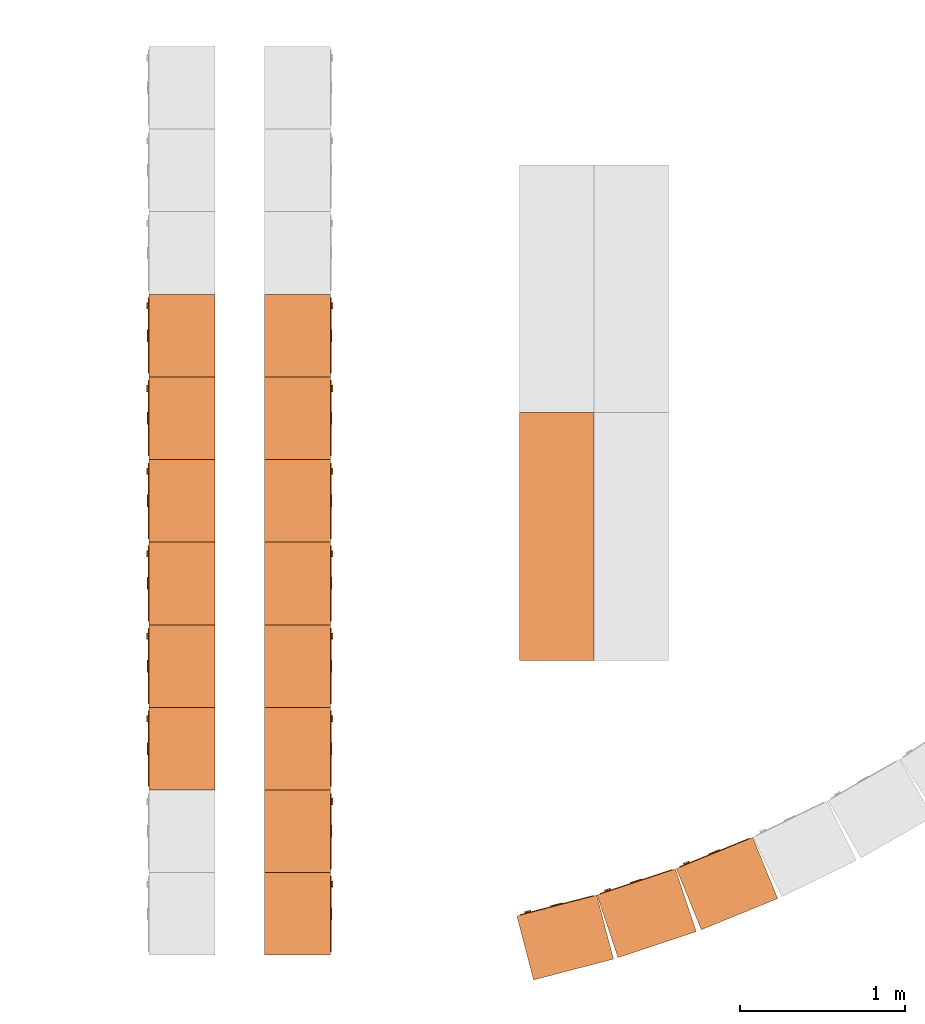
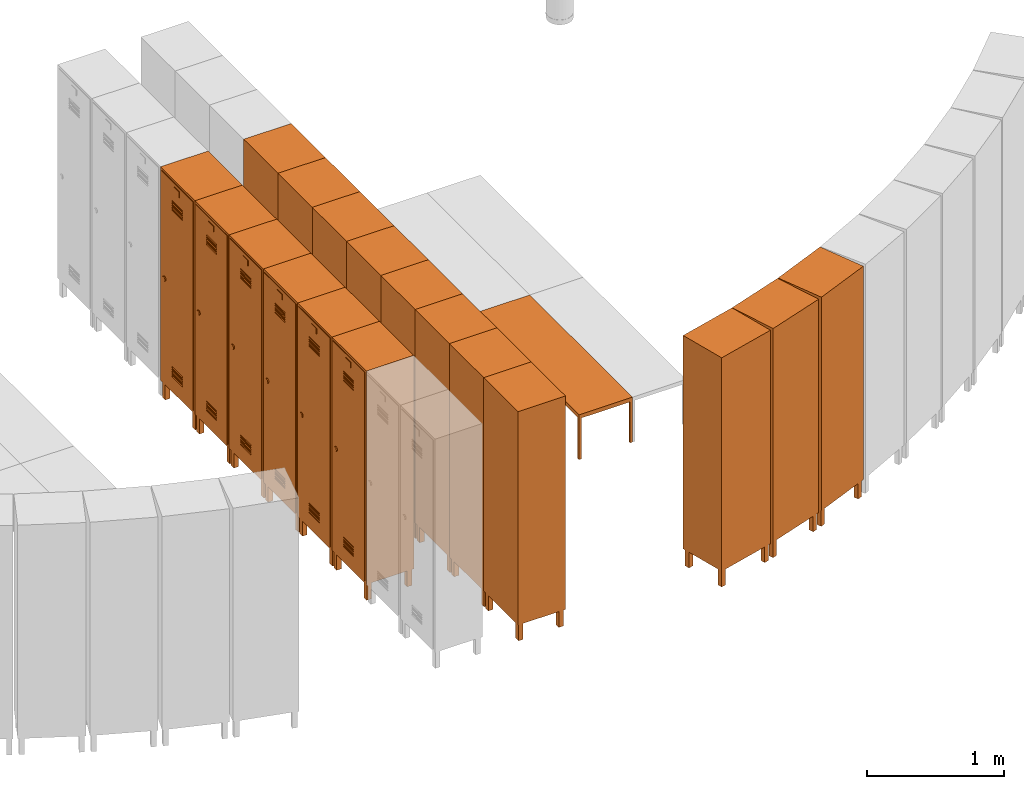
# One storey, part 5 of 7: 18 proxies.
"""IFC4 building model written with IfcOpenShell, lengths in millimetres."""

from ifc_helpers import new_model, entity, si_unit, converted_unit, derived_unit, direction, frame, origin_with_axes, place, context, subcontext, project, spatial, polygons, source, transform, mapped, type_object, element, save


model = new_model("IFC4")

# Units and contexts
model_context = context("Model", 3, precision=0.01, world=origin_with_axes(), true_north=direction((0.0, 1.0)))
body_context = subcontext(model_context, "Body", "Model", "MODEL_VIEW")
ifc_project = project(units=[si_unit("LENGTHUNIT", "METRE", prefix="MILLI"), si_unit("AREAUNIT", "SQUARE_METRE"), si_unit("VOLUMEUNIT", "CUBIC_METRE"), converted_unit("PLANEANGLEUNIT", "DEGREE", entity("IfcPlaneAngleMeasure", 0.0174532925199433), si_unit("PLANEANGLEUNIT", "RADIAN"), dimensions=[0, 0, 0, 0, 0, 0, 0]), converted_unit("TIMEUNIT", "Year", entity("IfcTimeMeasure", 31557600.0), si_unit("TIMEUNIT", "SECOND"), dimensions=[0, 0, 1, 0, 0, 0, 0]), si_unit("MASSUNIT", "GRAM", prefix="KILO"), si_unit("THERMODYNAMICTEMPERATUREUNIT", "DEGREE_CELSIUS"), si_unit("LUMINOUSINTENSITYUNIT", "LUMEN"), si_unit("ENERGYUNIT", "JOULE", prefix="MEGA"), derived_unit("THERMALCONDUCTANCEUNIT", [(si_unit("POWERUNIT", "WATT"), 1), (si_unit("LENGTHUNIT", "METRE"), -1), (si_unit("THERMODYNAMICTEMPERATUREUNIT", "KELVIN"), -1)]), derived_unit("SPECIFICHEATCAPACITYUNIT", [(si_unit("ENERGYUNIT", "JOULE"), 1), (si_unit("MASSUNIT", "GRAM", prefix="KILO"), -1), (si_unit("THERMODYNAMICTEMPERATUREUNIT", "KELVIN"), -1)]), derived_unit("MASSDENSITYUNIT", [(si_unit("MASSUNIT", "GRAM", prefix="KILO"), 1), (si_unit("VOLUMEUNIT", "CUBIC_METRE"), -1)])], contexts=[model_context])

# Site, building, storey
site_placement = place(None, origin_with_axes())
site = spatial("IfcSite", under=ifc_project, at=site_placement, Name="Exteriér", CompositionType="ELEMENT")
building_placement = place(site_placement, origin_with_axes())
building = spatial("IfcBuilding", under=site, at=building_placement, Name="Univerzitní lezecké centrum", CompositionType="ELEMENT")
storey_placement = place(building_placement, frame((0.0, 0.0, -3350.0), z_axis=(0.0, 0.0, 1.0), x_axis=(1.0, 0.0, 0.0)))
storey = spatial("IfcBuildingStorey", under=building, at=storey_placement, Name="1.PP", CompositionType="ELEMENT", Elevation=-3350.0)

# Proxies
building_element_proxy_type_1 = type_object("IfcBuildingElementProxyType", Name="Skříňky 24", PredefinedType="NOTDEFINED")
shared_shape_1 = source(origin_with_axes(), body_context, "Body", "Tessellation", [
    polygons([(9.999999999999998, 9.999999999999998, 0.0), (50.0, 9.999999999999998, 0.0), (50.0, 9.999999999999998, 150.0), (9.999999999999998, 9.999999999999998, 150.0), (9.999999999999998, 50.0, 0.0), (50.0, 50.0, 0.0), (50.0, 50.0, 150.0), (9.999999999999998, 50.0, 150.0)], [[[1, 2, 3, 4]], [[1, 5, 6, 2]], [[2, 6, 7, 3]], [[4, 3, 7, 8]], [[5, 1, 4, 8]], [[6, 5, 8, 7]]], closed=True),
    polygons([(449.9999999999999, 9.999999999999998, 0.0), (490.0, 9.999999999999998, 0.0), (490.0, 9.999999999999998, 150.0), (449.9999999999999, 9.999999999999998, 150.0), (449.9999999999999, 50.0, 0.0), (490.0, 50.0, 0.0), (490.0, 50.0, 150.0), (449.9999999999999, 50.0, 150.0)], [[[1, 2, 3, 4]], [[1, 5, 6, 2]], [[2, 6, 7, 3]], [[4, 3, 7, 8]], [[5, 1, 4, 8]], [[6, 5, 8, 7]]], closed=True),
    polygons([(9.999999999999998, 350.0, 0.0), (50.0, 350.0, 0.0), (50.0, 350.0, 150.0), (9.999999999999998, 350.0, 150.0), (9.999999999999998, 390.0, 0.0), (50.0, 390.0, 0.0), (50.0, 390.0, 150.0), (9.999999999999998, 390.0, 150.0)], [[[1, 2, 3, 4]], [[1, 5, 6, 2]], [[2, 6, 7, 3]], [[4, 3, 7, 8]], [[5, 1, 4, 8]], [[6, 5, 8, 7]]], closed=True),
    polygons([(449.9999999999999, 350.0, 0.0), (490.0, 350.0, 0.0), (490.0, 350.0, 150.0), (449.9999999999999, 350.0, 150.0), (449.9999999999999, 390.0, 0.0), (490.0, 390.0, 0.0), (490.0, 390.0, 150.0), (449.9999999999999, 390.0, 150.0)], [[[1, 2, 3, 4]], [[1, 5, 6, 2]], [[2, 6, 7, 3]], [[4, 3, 7, 8]], [[5, 1, 4, 8]], [[6, 5, 8, 7]]], closed=True),
    polygons([(0.0, 0.0, 150.0), (0.0, 0.0, 2050.0), (0.0, 379.9999999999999, 2050.0), (0.0, 380.0, 150.0), (500.0, 0.0, 150.0), (500.0, 0.0, 2050.0), (20.0, 0.0, 170.0), (20.0, 0.0, 2030.0), (480.0, 0.0, 2030.0), (480.0, 0.0, 170.0), (500.0, 379.9999999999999, 2050.0), (500.0, 380.0, 150.0), (20.0, 380.0, 170.0), (480.0, 380.0, 170.0), (480.0, 379.9999999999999, 2030.0), (20.0, 379.9999999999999, 2030.0)], [[[1, 2, 3, 4]], [[1, 5, 6, 2], [7, 8, 9, 10]], [[2, 6, 11, 3]], [[4, 3, 11, 12], [13, 14, 15, 16]], [[5, 1, 4, 12]], [[6, 5, 12, 11]], [[8, 7, 13, 16]], [[9, 8, 16, 15]], [[10, 9, 15, 14]], [[7, 10, 14, 13]]], closed=True),
    polygons([(0.0, 379.9999999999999, 2050.0), (500.0, 379.9999999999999, 2050.0), (500.0, 399.9999999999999, 2050.0), (0.0, 399.9999999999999, 2050.0), (0.0, 380.0, 150.0), (500.0, 380.0, 150.0), (500.0, 400.0, 150.0), (0.0, 400.0, 150.0)], [[[1, 2, 3, 4]], [[1, 5, 6, 2]], [[2, 6, 7, 3]], [[4, 3, 7, 8]], [[5, 1, 4, 8]], [[6, 5, 8, 7]]], closed=True),
    polygons([(20.0, 5.0, 170.0), (480.0000000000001, 5.0, 170.0), (480.0000000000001, -5.0, 170.0), (20.0, -5.0, 170.0), (20.0, 5.000000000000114, 2030.0), (480.0000000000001, 5.000000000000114, 2030.0), (175.0, 5.000000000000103, 1850.0), (325.0000000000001, 5.000000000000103, 1850.0), (325.0000000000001, 5.000000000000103, 1860.0), (175.0, 5.000000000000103, 1860.0), (175.0, 5.000000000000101, 1830.0), (325.0000000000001, 5.000000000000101, 1830.0), (325.0000000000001, 5.000000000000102, 1840.0), (175.0, 5.000000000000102, 1840.0), (175.0, 5.0000000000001, 1810.0), (325.0000000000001, 5.0000000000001, 1810.0), (325.0000000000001, 5.0000000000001, 1820.0), (175.0, 5.0000000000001, 1820.0), (175.0, 5.000000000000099, 1790.0), (325.0000000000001, 5.000000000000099, 1790.0), (325.0000000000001, 5.000000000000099, 1800.0), (175.0, 5.000000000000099, 1800.0), (175.0, 5.000000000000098, 1770.0), (325.0000000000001, 5.000000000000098, 1770.0), (325.0000000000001, 5.000000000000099, 1780.0), (175.0, 5.000000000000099, 1780.0), (175.0, 5.000000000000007, 290.0), (325.0000000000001, 5.000000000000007, 290.0), (325.0000000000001, 5.000000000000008, 300.0), (175.0, 5.000000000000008, 300.0), (175.0, 5.000000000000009, 310.0), (325.0000000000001, 5.000000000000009, 310.0), (325.0000000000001, 5.00000000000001, 319.9999999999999), (175.0, 5.00000000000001, 319.9999999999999), (175.0, 5.00000000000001, 329.9999999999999), (325.0000000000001, 5.00000000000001, 329.9999999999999), (325.0000000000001, 5.000000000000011, 339.9999999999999), (175.0, 5.000000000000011, 339.9999999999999), (175.0, 5.000000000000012, 350.0), (325.0000000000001, 5.000000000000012, 350.0), (325.0000000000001, 5.000000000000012, 360.0), (175.0, 5.000000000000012, 360.0), (175.0, 5.000000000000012, 370.0), (325.0000000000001, 5.000000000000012, 370.0), (325.0000000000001, 5.000000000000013, 380.0), (175.0, 5.000000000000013, 380.0), (480.0000000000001, -4.999999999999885, 2030.0), (20.0, -4.999999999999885, 2030.0), (175.0, -4.999999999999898, 1850.0), (175.0, -4.999999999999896, 1860.0), (325.0000000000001, -4.999999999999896, 1860.0), (325.0000000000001, -4.999999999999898, 1850.0), (175.0, -4.999999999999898, 1830.0), (175.0, -4.999999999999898, 1840.0), (325.0000000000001, -4.999999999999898, 1840.0), (325.0000000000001, -4.999999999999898, 1830.0), (175.0, -4.9999999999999, 1810.0), (175.0, -4.9999999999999, 1820.0), (325.0000000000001, -4.9999999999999, 1820.0), (325.0000000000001, -4.9999999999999, 1810.0), (175.0, -4.999999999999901, 1790.0), (175.0, -4.9999999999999, 1800.0), (325.0000000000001, -4.9999999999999, 1800.0), (325.0000000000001, -4.999999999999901, 1790.0), (175.0, -4.999999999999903, 1770.0), (175.0, -4.999999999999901, 1780.0), (325.0000000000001, -4.999999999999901, 1780.0), (325.0000000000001, -4.999999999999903, 1770.0), (175.0, -4.999999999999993, 290.0), (175.0, -4.999999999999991, 300.0), (325.0000000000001, -4.999999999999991, 300.0), (325.0000000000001, -4.999999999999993, 290.0), (175.0, -4.999999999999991, 310.0), (175.0, -4.999999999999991, 319.9999999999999), (325.0000000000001, -4.999999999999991, 319.9999999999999), (325.0000000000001, -4.999999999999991, 310.0), (175.0, -4.999999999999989, 329.9999999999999), (175.0, -4.999999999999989, 339.9999999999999), (325.0000000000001, -4.999999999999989, 339.9999999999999), (325.0000000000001, -4.999999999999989, 329.9999999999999), (175.0, -4.999999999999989, 350.0), (175.0, -4.999999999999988, 360.0), (325.0000000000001, -4.999999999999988, 360.0), (325.0000000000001, -4.999999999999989, 350.0), (175.0, -4.999999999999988, 370.0), (175.0, -4.999999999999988, 380.0), (325.0000000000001, -4.999999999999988, 380.0), (325.0000000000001, -4.999999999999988, 370.0)], [[[1, 2, 3, 4]], [[1, 5, 6, 2], [7, 8, 9, 10], [11, 12, 13, 14], [15, 16, 17, 18], [19, 20, 21, 22], [23, 24, 25, 26], [27, 28, 29, 30], [31, 32, 33, 34], [35, 36, 37, 38], [39, 40, 41, 42], [43, 44, 45, 46]], [[2, 6, 47, 3]], [[4, 3, 47, 48], [49, 50, 51, 52], [53, 54, 55, 56], [57, 58, 59, 60], [61, 62, 63, 64], [65, 66, 67, 68], [69, 70, 71, 72], [73, 74, 75, 76], [77, 78, 79, 80], [81, 82, 83, 84], [85, 86, 87, 88]], [[5, 1, 4, 48]], [[6, 5, 48, 47]], [[8, 7, 49, 52]], [[9, 8, 52, 51]], [[10, 9, 51, 50]], [[7, 10, 50, 49]], [[12, 11, 53, 56]], [[13, 12, 56, 55]], [[14, 13, 55, 54]], [[11, 14, 54, 53]], [[16, 15, 57, 60]], [[17, 16, 60, 59]], [[18, 17, 59, 58]], [[15, 18, 58, 57]], [[20, 19, 61, 64]], [[21, 20, 64, 63]], [[22, 21, 63, 62]], [[19, 22, 62, 61]], [[24, 23, 65, 68]], [[25, 24, 68, 67]], [[26, 25, 67, 66]], [[23, 26, 66, 65]], [[28, 27, 69, 72]], [[29, 28, 72, 71]], [[30, 29, 71, 70]], [[27, 30, 70, 69]], [[32, 31, 73, 76]], [[33, 32, 76, 75]], [[34, 33, 75, 74]], [[31, 34, 74, 73]], [[36, 35, 77, 80]], [[37, 36, 80, 79]], [[38, 37, 79, 78]], [[35, 38, 78, 77]], [[40, 39, 81, 84]], [[41, 40, 84, 83]], [[42, 41, 83, 82]], [[39, 42, 82, 81]], [[44, 43, 85, 88]], [[45, 44, 88, 87]], [[46, 45, 87, 86]], [[43, 46, 86, 85]]], closed=True),
    polygons([(287.5, -10.0, 1950.0), (212.5, -10.0, 1950.0), (212.5, -5.0, 1950.0), (287.5, -5.0, 1950.0), (287.5, -10.0, 2000.0), (212.5, -10.0, 2000.0), (212.5, -5.0, 2000.0), (287.5, -5.0, 2000.0)], [[[1, 2, 3, 4]], [[2, 1, 5, 6]], [[3, 2, 6, 7]], [[4, 3, 7, 8]], [[1, 4, 8, 5]], [[6, 5, 8, 7]]], closed=True),
    polygons([(84.14213562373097, -5.000000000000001, 1085.857864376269), (70.0, -5.000000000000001, 1080.0), (55.85786437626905, -5.000000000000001, 1085.857864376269), (50.0, -5.0, 1100.0), (55.85786437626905, -4.999999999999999, 1114.142135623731), (70.0, -4.999999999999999, 1120.0), (84.14213562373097, -4.999999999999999, 1114.142135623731), (90.00000000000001, -5.0, 1100.0), (84.14213562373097, -15.0, 1085.857864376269), (70.0, -15.0, 1080.0), (55.85786437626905, -15.0, 1085.857864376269), (50.0, -15.0, 1100.0), (55.85786437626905, -15.0, 1114.142135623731), (70.0, -15.0, 1120.0), (84.14213562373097, -15.0, 1114.142135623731), (90.00000000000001, -15.0, 1100.0)], [[[1, 2, 3, 4, 5, 6, 7, 8]], [[2, 1, 9, 10]], [[3, 2, 10, 11]], [[4, 3, 11, 12]], [[5, 4, 12, 13]], [[6, 5, 13, 14]], [[7, 6, 14, 15]], [[8, 7, 15, 16]], [[1, 8, 16, 9]], [[9, 16, 15, 14, 13, 12, 11, 10]]], closed=True),
])
for number, where, z_axis, x_axis, name in (
    (1, (1899.851648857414, -4949.739482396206, 0.0), (0.0, 0.0, 1.0), (0.0, -1.0, 0.0), "OV02"),
    (2, (1899.851648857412, -5449.739482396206, 0.0), (0.0, 0.0, 1.0), (0.0, -1.0, 0.0), "OV02"),
    (3, (1899.851648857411, -6449.739482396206, 0.0), (0.0, 0.0, 1.0), (0.0, -1.0, 0.0), "OV02"),
    (4, (1899.851648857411, -5949.739482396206, 0.0), (0.0, 0.0, 1.0), (0.0, -1.0, 0.0), "OV02"),
    (5, (1899.851648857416, -3949.739482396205, 0.0), (0.0, 0.0, 1.0), (0.0, -1.0, 0.0), "OV02"),
    (6, (1899.851648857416, -4449.739482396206, 0.0), (0.0, 0.0, 1.0), (0.0, -1.0, 0.0), "OV02"),
):
    element("IfcBuildingElementProxy", number, at=place(storey_placement, frame(where, z_axis=z_axis, x_axis=x_axis)), inside=storey, type_object=building_element_proxy_type_1, Name=name, PredefinedType="NOTDEFINED", context=body_context, shape_type="MappedRepresentation", body=[
        mapped(shared_shape_1, transform((0.0, 0.0, 0.0))),
    ])
shared_shape_2 = source(origin_with_axes(), body_context, "Body", "Tessellation", [
    polygons([(-9.999999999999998, 9.999999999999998, 0.0), (-9.999999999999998, 9.999999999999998, 150.0), (-50.0, 9.999999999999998, 150.0), (-50.0, 9.999999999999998, 0.0), (-9.999999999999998, 50.0, 0.0), (-9.999999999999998, 50.0, 150.0), (-50.0, 50.0, 150.0), (-50.0, 50.0, 0.0)], [[[1, 2, 3, 4]], [[5, 6, 2, 1]], [[2, 6, 7, 3]], [[4, 3, 7, 8]], [[1, 4, 8, 5]], [[8, 7, 6, 5]]], closed=True),
    polygons([(-449.9999999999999, 9.999999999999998, 0.0), (-449.9999999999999, 9.999999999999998, 150.0), (-490.0, 9.999999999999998, 150.0), (-490.0, 9.999999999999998, 0.0), (-449.9999999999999, 50.0, 0.0), (-449.9999999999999, 50.0, 150.0), (-490.0, 50.0, 150.0), (-490.0, 50.0, 0.0)], [[[1, 2, 3, 4]], [[5, 6, 2, 1]], [[2, 6, 7, 3]], [[4, 3, 7, 8]], [[1, 4, 8, 5]], [[8, 7, 6, 5]]], closed=True),
    polygons([(-9.999999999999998, 350.0, 0.0), (-9.999999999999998, 350.0, 150.0), (-50.0, 350.0, 150.0), (-50.0, 350.0, 0.0), (-9.999999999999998, 390.0, 0.0), (-9.999999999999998, 390.0, 150.0), (-50.0, 390.0, 150.0), (-50.0, 390.0, 0.0)], [[[1, 2, 3, 4]], [[5, 6, 2, 1]], [[2, 6, 7, 3]], [[4, 3, 7, 8]], [[1, 4, 8, 5]], [[8, 7, 6, 5]]], closed=True),
    polygons([(-449.9999999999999, 350.0, 0.0), (-449.9999999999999, 350.0, 150.0), (-490.0, 350.0, 150.0), (-490.0, 350.0, 0.0), (-449.9999999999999, 390.0, 0.0), (-449.9999999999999, 390.0, 150.0), (-490.0, 390.0, 150.0), (-490.0, 390.0, 0.0)], [[[1, 2, 3, 4]], [[5, 6, 2, 1]], [[2, 6, 7, 3]], [[4, 3, 7, 8]], [[1, 4, 8, 5]], [[8, 7, 6, 5]]], closed=True),
    polygons([(0.0, 0.0, 150.0), (0.0, 380.0, 150.0), (0.0, 379.9999999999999, 2050.0), (0.0, 0.0, 2050.0), (-500.0, 0.0, 150.0), (-500.0, 380.0, 150.0), (-500.0, 379.9999999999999, 2050.0), (-20.0, 380.0, 170.0), (-20.0, 379.9999999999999, 2030.0), (-480.0, 379.9999999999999, 2030.0), (-480.0, 380.0, 170.0), (-500.0, 0.0, 2050.0), (-20.0, 0.0, 170.0), (-480.0, 0.0, 170.0), (-480.0, 0.0, 2030.0), (-20.0, 0.0, 2030.0)], [[[1, 2, 3, 4]], [[5, 6, 2, 1]], [[2, 6, 7, 3], [8, 9, 10, 11]], [[4, 3, 7, 12]], [[1, 4, 12, 5], [13, 14, 15, 16]], [[12, 7, 6, 5]], [[16, 9, 8, 13]], [[15, 10, 9, 16]], [[14, 11, 10, 15]], [[13, 8, 11, 14]]], closed=True),
    polygons([(0.0, 379.9999999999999, 2050.0), (0.0, 399.9999999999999, 2050.0), (-500.0, 399.9999999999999, 2050.0), (-500.0, 379.9999999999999, 2050.0), (0.0, 380.0, 150.0), (0.0, 400.0, 150.0), (-500.0, 400.0, 150.0), (-500.0, 380.0, 150.0)], [[[1, 2, 3, 4]], [[5, 6, 2, 1]], [[2, 6, 7, 3]], [[4, 3, 7, 8]], [[1, 4, 8, 5]], [[8, 7, 6, 5]]], closed=True),
    polygons([(-20.0, 5.0, 170.0), (-20.0, -5.0, 170.0), (-480.0000000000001, -5.0, 170.0), (-480.0000000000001, 5.0, 170.0), (-20.0, 5.000000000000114, 2030.0), (-20.0, -4.999999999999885, 2030.0), (-480.0000000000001, -4.999999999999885, 2030.0), (-175.0, -4.999999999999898, 1850.0), (-325.0000000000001, -4.999999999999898, 1850.0), (-325.0000000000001, -4.999999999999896, 1860.0), (-175.0, -4.999999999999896, 1860.0), (-175.0, -4.999999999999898, 1830.0), (-325.0000000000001, -4.999999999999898, 1830.0), (-325.0000000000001, -4.999999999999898, 1840.0), (-175.0, -4.999999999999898, 1840.0), (-175.0, -4.9999999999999, 1810.0), (-325.0000000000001, -4.9999999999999, 1810.0), (-325.0000000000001, -4.9999999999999, 1820.0), (-175.0, -4.9999999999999, 1820.0), (-175.0, -4.999999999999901, 1790.0), (-325.0000000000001, -4.999999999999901, 1790.0), (-325.0000000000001, -4.9999999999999, 1800.0), (-175.0, -4.9999999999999, 1800.0), (-175.0, -4.999999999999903, 1770.0), (-325.0000000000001, -4.999999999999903, 1770.0), (-325.0000000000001, -4.999999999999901, 1780.0), (-175.0, -4.999999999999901, 1780.0), (-175.0, -4.999999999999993, 290.0), (-325.0000000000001, -4.999999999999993, 290.0), (-325.0000000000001, -4.999999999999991, 300.0), (-175.0, -4.999999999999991, 300.0), (-175.0, -4.999999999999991, 310.0), (-325.0000000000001, -4.999999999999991, 310.0), (-325.0000000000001, -4.999999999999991, 319.9999999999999), (-175.0, -4.999999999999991, 319.9999999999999), (-175.0, -4.999999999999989, 329.9999999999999), (-325.0000000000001, -4.999999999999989, 329.9999999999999), (-325.0000000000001, -4.999999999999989, 339.9999999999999), (-175.0, -4.999999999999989, 339.9999999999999), (-175.0, -4.999999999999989, 350.0), (-325.0000000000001, -4.999999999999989, 350.0), (-325.0000000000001, -4.999999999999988, 360.0), (-175.0, -4.999999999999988, 360.0), (-175.0, -4.999999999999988, 370.0), (-325.0000000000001, -4.999999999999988, 370.0), (-325.0000000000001, -4.999999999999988, 380.0), (-175.0, -4.999999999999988, 380.0), (-480.0000000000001, 5.000000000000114, 2030.0), (-175.0, 5.000000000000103, 1850.0), (-175.0, 5.000000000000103, 1860.0), (-325.0000000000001, 5.000000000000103, 1860.0), (-325.0000000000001, 5.000000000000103, 1850.0), (-175.0, 5.000000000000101, 1830.0), (-175.0, 5.000000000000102, 1840.0), (-325.0000000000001, 5.000000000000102, 1840.0), (-325.0000000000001, 5.000000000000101, 1830.0), (-175.0, 5.0000000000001, 1810.0), (-175.0, 5.0000000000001, 1820.0), (-325.0000000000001, 5.0000000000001, 1820.0), (-325.0000000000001, 5.0000000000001, 1810.0), (-175.0, 5.000000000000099, 1790.0), (-175.0, 5.000000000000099, 1800.0), (-325.0000000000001, 5.000000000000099, 1800.0), (-325.0000000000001, 5.000000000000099, 1790.0), (-175.0, 5.000000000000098, 1770.0), (-175.0, 5.000000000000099, 1780.0), (-325.0000000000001, 5.000000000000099, 1780.0), (-325.0000000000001, 5.000000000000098, 1770.0), (-175.0, 5.000000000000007, 290.0), (-175.0, 5.000000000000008, 300.0), (-325.0000000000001, 5.000000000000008, 300.0), (-325.0000000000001, 5.000000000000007, 290.0), (-175.0, 5.000000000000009, 310.0), (-175.0, 5.00000000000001, 319.9999999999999), (-325.0000000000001, 5.00000000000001, 319.9999999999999), (-325.0000000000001, 5.000000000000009, 310.0), (-175.0, 5.00000000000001, 329.9999999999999), (-175.0, 5.000000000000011, 339.9999999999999), (-325.0000000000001, 5.000000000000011, 339.9999999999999), (-325.0000000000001, 5.00000000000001, 329.9999999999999), (-175.0, 5.000000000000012, 350.0), (-175.0, 5.000000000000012, 360.0), (-325.0000000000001, 5.000000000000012, 360.0), (-325.0000000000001, 5.000000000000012, 350.0), (-175.0, 5.000000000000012, 370.0), (-175.0, 5.000000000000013, 380.0), (-325.0000000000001, 5.000000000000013, 380.0), (-325.0000000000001, 5.000000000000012, 370.0)], [[[1, 2, 3, 4]], [[5, 6, 2, 1]], [[2, 6, 7, 3], [8, 9, 10, 11], [12, 13, 14, 15], [16, 17, 18, 19], [20, 21, 22, 23], [24, 25, 26, 27], [28, 29, 30, 31], [32, 33, 34, 35], [36, 37, 38, 39], [40, 41, 42, 43], [44, 45, 46, 47]], [[4, 3, 7, 48]], [[1, 4, 48, 5], [49, 50, 51, 52], [53, 54, 55, 56], [57, 58, 59, 60], [61, 62, 63, 64], [65, 66, 67, 68], [69, 70, 71, 72], [73, 74, 75, 76], [77, 78, 79, 80], [81, 82, 83, 84], [85, 86, 87, 88]], [[48, 7, 6, 5]], [[52, 9, 8, 49]], [[51, 10, 9, 52]], [[50, 11, 10, 51]], [[49, 8, 11, 50]], [[56, 13, 12, 53]], [[55, 14, 13, 56]], [[54, 15, 14, 55]], [[53, 12, 15, 54]], [[60, 17, 16, 57]], [[59, 18, 17, 60]], [[58, 19, 18, 59]], [[57, 16, 19, 58]], [[64, 21, 20, 61]], [[63, 22, 21, 64]], [[62, 23, 22, 63]], [[61, 20, 23, 62]], [[68, 25, 24, 65]], [[67, 26, 25, 68]], [[66, 27, 26, 67]], [[65, 24, 27, 66]], [[72, 29, 28, 69]], [[71, 30, 29, 72]], [[70, 31, 30, 71]], [[69, 28, 31, 70]], [[76, 33, 32, 73]], [[75, 34, 33, 76]], [[74, 35, 34, 75]], [[73, 32, 35, 74]], [[80, 37, 36, 77]], [[79, 38, 37, 80]], [[78, 39, 38, 79]], [[77, 36, 39, 78]], [[84, 41, 40, 81]], [[83, 42, 41, 84]], [[82, 43, 42, 83]], [[81, 40, 43, 82]], [[88, 45, 44, 85]], [[87, 46, 45, 88]], [[86, 47, 46, 87]], [[85, 44, 47, 86]]], closed=True),
    polygons([(-287.5, -10.0, 1950.0), (-287.5, -5.0, 1950.0), (-212.5, -5.0, 1950.0), (-212.5, -10.0, 1950.0), (-287.5, -10.0, 2000.0), (-287.5, -5.0, 2000.0), (-212.5, -5.0, 2000.0), (-212.5, -10.0, 2000.0)], [[[1, 2, 3, 4]], [[1, 5, 6, 2]], [[2, 6, 7, 3]], [[3, 7, 8, 4]], [[4, 8, 5, 1]], [[8, 7, 6, 5]]], closed=True),
    polygons([(-84.14213562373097, -5.000000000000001, 1085.857864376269), (-90.00000000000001, -5.0, 1100.0), (-84.14213562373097, -4.999999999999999, 1114.142135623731), (-70.0, -4.999999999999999, 1120.0), (-55.85786437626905, -4.999999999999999, 1114.142135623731), (-50.0, -5.0, 1100.0), (-55.85786437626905, -5.000000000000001, 1085.857864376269), (-70.0, -5.000000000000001, 1080.0), (-84.14213562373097, -15.0, 1085.857864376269), (-90.00000000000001, -15.0, 1100.0), (-84.14213562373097, -15.0, 1114.142135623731), (-70.0, -15.0, 1120.0), (-55.85786437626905, -15.0, 1114.142135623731), (-50.0, -15.0, 1100.0), (-55.85786437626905, -15.0, 1085.857864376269), (-70.0, -15.0, 1080.0)], [[[1, 2, 3, 4, 5, 6, 7, 8]], [[1, 9, 10, 2]], [[2, 10, 11, 3]], [[3, 11, 12, 4]], [[4, 12, 13, 5]], [[5, 13, 14, 6]], [[6, 14, 15, 7]], [[7, 15, 16, 8]], [[8, 16, 9, 1]], [[9, 16, 15, 14, 13, 12, 11, 10]]], closed=True),
])
for number, where, z_axis, x_axis, name in (
    (7, (4613.144919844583, -7585.566890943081, 0.0), (0.0, 0.0, 1.0), (-0.9489108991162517, -0.3155441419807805, 0.0), "OV03"),
    (8, (2999.851648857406, -7449.739482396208, 0.0), (0.0, 0.0, 1.0), (0.0, 1.0, 0.0), "OV03"),
    (9, (2999.851648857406, -6449.739482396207, 0.0), (0.0, 0.0, 1.0), (0.0, 1.0, 0.0), "OV03"),
    (10, (2999.851648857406, -6949.739482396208, 0.0), (0.0, 0.0, 1.0), (0.0, 1.0, 0.0), "OV03"),
    (11, (5092.357618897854, -7425.828232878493, 0.0), (0.0, 0.0, 1.0), (-0.9257394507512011, -0.378161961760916, 0.0), "OV03"),
    (12, (2999.851648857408, -5949.739482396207, 0.0), (0.0, 0.0, 1.0), (0.0, 1.0, 0.0), "OV03"),
    (13, (4127.58982156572, -7712.713227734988, 0.0), (0.0, 0.0, 1.0), (-0.9675455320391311, -0.2526967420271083, 0.0), "OV03"),
    (14, (2999.85164885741, -3949.739482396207, 0.0), (0.0, 0.0, 1.0), (0.0, 1.0, 0.0), "OV03"),
    (15, (2999.851648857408, -4449.739482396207, 0.0), (0.0, 0.0, 1.0), (0.0, 1.0, 0.0), "OV03"),
    (16, (2999.851648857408, -4949.739482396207, 0.0), (0.0, 0.0, 1.0), (0.0, 1.0, 0.0), "OV03"),
    (17, (2999.851648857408, -5449.739482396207, 0.0), (0.0, 0.0, 1.0), (0.0, 1.0, 0.0), "OV03"),
):
    element("IfcBuildingElementProxy", number, at=place(storey_placement, frame(where, z_axis=z_axis, x_axis=x_axis)), inside=storey, type_object=building_element_proxy_type_1, Name=name, PredefinedType="NOTDEFINED", context=body_context, shape_type="MappedRepresentation", body=[
        mapped(shared_shape_2, transform((0.0, 0.0, 0.0))),
    ])
building_element_proxy_type_2 = type_object("IfcBuildingElementProxyType", Name="Lavice 24", PredefinedType="NOTDEFINED")
shared_shape_3 = source(origin_with_axes(), body_context, "Body", "Tessellation", [
    polygons([(-20.0, 0.0, 0.0), (-20.0, 20.0, 0.0), (0.0, 20.0, 0.0), (0.0, 0.0, 0.0), (-20.0, 0.0, 385.0), (-20.0, 20.0, 385.0), (0.0, 20.0, 385.0), (0.0, 0.0, 385.0)], [[[1, 2, 3, 4]], [[1, 5, 6, 2]], [[2, 6, 7, 3]], [[3, 7, 8, 4]], [[4, 8, 5, 1]], [[8, 7, 6, 5]]], closed=True),
    polygons([(-20.0, 430.0, 0.0), (-20.0, 450.0, 0.0), (0.0, 450.0, 0.0), (0.0, 430.0, 0.0), (-20.0, 430.0, 385.0), (-20.0, 450.0, 385.0), (0.0, 450.0, 385.0), (0.0, 430.0, 385.0)], [[[1, 2, 3, 4]], [[1, 5, 6, 2]], [[2, 6, 7, 3]], [[3, 7, 8, 4]], [[4, 8, 5, 1]], [[8, 7, 6, 5]]], closed=True),
    polygons([(-1500.0, 0.0, 0.0), (-1500.0, 20.0, 0.0), (-1480.0, 20.0, 0.0), (-1480.0, 0.0, 0.0), (-1500.0, 0.0, 385.0), (-1500.0, 20.0, 385.0), (-1480.0, 20.0, 385.0), (-1480.0, 0.0, 385.0)], [[[1, 2, 3, 4]], [[1, 5, 6, 2]], [[2, 6, 7, 3]], [[3, 7, 8, 4]], [[4, 8, 5, 1]], [[8, 7, 6, 5]]], closed=True),
    polygons([(-1500.0, 430.0, 0.0), (-1500.0, 450.0, 0.0), (-1480.0, 450.0, 0.0), (-1480.0, 430.0, 0.0), (-1500.0, 430.0, 385.0), (-1500.0, 450.0, 385.0), (-1480.0, 450.0, 385.0), (-1480.0, 430.0, 385.0)], [[[1, 2, 3, 4]], [[1, 5, 6, 2]], [[2, 6, 7, 3]], [[3, 7, 8, 4]], [[4, 8, 5, 1]], [[8, 7, 6, 5]]], closed=True),
    polygons([(-760.0, 0.0, 0.0), (-760.0, 20.0, 0.0), (-740.0, 20.0, 0.0), (-740.0, 0.0, 0.0), (-760.0, 0.0, 385.0), (-760.0, 20.0, 385.0), (-740.0, 20.0, 385.0), (-740.0, 0.0, 385.0)], [[[1, 2, 3, 4]], [[1, 5, 6, 2]], [[2, 6, 7, 3]], [[3, 7, 8, 4]], [[4, 8, 5, 1]], [[8, 7, 6, 5]]], closed=True),
    polygons([(-760.0, 430.0, 0.0), (-760.0, 450.0, 0.0), (-740.0, 450.0, 0.0), (-740.0, 430.0, 0.0), (-760.0, 430.0, 385.0), (-760.0, 450.0, 385.0), (-740.0, 450.0, 385.0), (-740.0, 430.0, 385.0)], [[[1, 2, 3, 4]], [[1, 5, 6, 2]], [[2, 6, 7, 3]], [[3, 7, 8, 4]], [[4, 8, 5, 1]], [[8, 7, 6, 5]]], closed=True),
    polygons([(-740.0, 0.0, 365.0000000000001), (-740.0, 20.0, 365.0000000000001), (-20.0, 20.0, 365.0000000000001), (-20.0, 0.0, 365.0000000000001), (-740.0, 0.0, 385.0000000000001), (-740.0, 20.0, 385.0000000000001), (-20.0, 20.0, 385.0000000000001), (-20.0, 0.0, 385.0000000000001)], [[[1, 2, 3, 4]], [[1, 5, 6, 2]], [[2, 6, 7, 3]], [[3, 7, 8, 4]], [[4, 8, 5, 1]], [[8, 7, 6, 5]]], closed=True),
    polygons([(-1480.0, 0.0, 365.0000000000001), (-1480.0, 20.0, 365.0000000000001), (-760.0, 20.0, 365.0000000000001), (-760.0, 0.0, 365.0000000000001), (-1480.0, 0.0, 385.0000000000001), (-1480.0, 20.0, 385.0000000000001), (-760.0, 20.0, 385.0000000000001), (-760.0, 0.0, 385.0000000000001)], [[[1, 2, 3, 4]], [[1, 5, 6, 2]], [[2, 6, 7, 3]], [[3, 7, 8, 4]], [[4, 8, 5, 1]], [[8, 7, 6, 5]]], closed=True),
    polygons([(-740.0, 430.0, 365.0000000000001), (-740.0, 450.0, 365.0000000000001), (-20.0, 450.0, 365.0000000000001), (-20.0, 430.0, 365.0000000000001), (-740.0, 430.0, 385.0000000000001), (-740.0, 450.0, 385.0000000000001), (-20.0, 450.0, 385.0000000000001), (-20.0, 430.0, 385.0000000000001)], [[[1, 2, 3, 4]], [[1, 5, 6, 2]], [[2, 6, 7, 3]], [[3, 7, 8, 4]], [[4, 8, 5, 1]], [[8, 7, 6, 5]]], closed=True),
    polygons([(-1480.0, 430.0, 365.0000000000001), (-1480.0, 450.0, 365.0000000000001), (-760.0, 450.0, 365.0000000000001), (-760.0, 430.0, 365.0000000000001), (-1480.0, 430.0, 385.0000000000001), (-1480.0, 450.0, 385.0000000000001), (-760.0, 450.0, 385.0000000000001), (-760.0, 430.0, 385.0000000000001)], [[[1, 2, 3, 4]], [[1, 5, 6, 2]], [[2, 6, 7, 3]], [[3, 7, 8, 4]], [[4, 8, 5, 1]], [[8, 7, 6, 5]]], closed=True),
    polygons([(-20.0, 20.0, 365.0000000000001), (-20.0, 430.0000000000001, 365.0000000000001), (0.0, 430.0000000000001, 365.0000000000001), (0.0, 20.0, 365.0000000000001), (-20.0, 20.0, 385.0000000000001), (-20.0, 430.0000000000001, 385.0000000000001), (0.0, 430.0000000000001, 385.0000000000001), (0.0, 20.0, 385.0000000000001)], [[[1, 2, 3, 4]], [[1, 5, 6, 2]], [[2, 6, 7, 3]], [[3, 7, 8, 4]], [[4, 8, 5, 1]], [[8, 7, 6, 5]]], closed=True),
    polygons([(-760.0, 20.0, 365.0000000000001), (-760.0, 430.0000000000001, 365.0000000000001), (-740.0, 430.0000000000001, 365.0000000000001), (-740.0, 20.0, 365.0000000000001), (-760.0, 20.0, 385.0000000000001), (-760.0, 430.0000000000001, 385.0000000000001), (-740.0, 430.0000000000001, 385.0000000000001), (-740.0, 20.0, 385.0000000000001)], [[[1, 2, 3, 4]], [[1, 5, 6, 2]], [[2, 6, 7, 3]], [[3, 7, 8, 4]], [[4, 8, 5, 1]], [[8, 7, 6, 5]]], closed=True),
    polygons([(-1500.0, 20.0, 365.0000000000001), (-1500.0, 430.0000000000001, 365.0000000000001), (-1480.0, 430.0000000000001, 365.0000000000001), (-1480.0, 20.0, 365.0000000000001), (-1500.0, 20.0, 385.0000000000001), (-1500.0, 430.0000000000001, 385.0000000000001), (-1480.0, 430.0000000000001, 385.0000000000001), (-1480.0, 20.0, 385.0000000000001)], [[[1, 2, 3, 4]], [[1, 5, 6, 2]], [[2, 6, 7, 3]], [[3, 7, 8, 4]], [[4, 8, 5, 1]], [[8, 7, 6, 5]]], closed=True),
    polygons([(0.0, 0.0, 385.0), (0.0, 0.0, 400.0), (-1500.0, 0.0, 400.0), (-1500.0, 0.0, 385.0), (0.0, 450.0, 385.0), (0.0, 450.0, 400.0), (-1500.0, 450.0, 400.0), (-1500.0, 450.0, 385.0)], [[[1, 2, 3, 4]], [[5, 6, 2, 1]], [[2, 6, 7, 3]], [[4, 3, 7, 8]], [[1, 4, 8, 5]], [[8, 7, 6, 5]]], closed=True),
])
proxy_placement = place(storey_placement, frame((4594.078167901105, -4666.618359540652, 0.0), z_axis=(0.0, 0.0, 1.0), x_axis=(0.0, 1.0, 0.0)))
element("IfcBuildingElementProxy", 18, at=proxy_placement, inside=storey, type_object=building_element_proxy_type_2, Name="OV04", PredefinedType="NOTDEFINED", context=body_context, shape_type="MappedRepresentation", body=[
    mapped(shared_shape_3, transform((0.0, 0.0, 0.0))),
])

save(model, "model.ifc")
